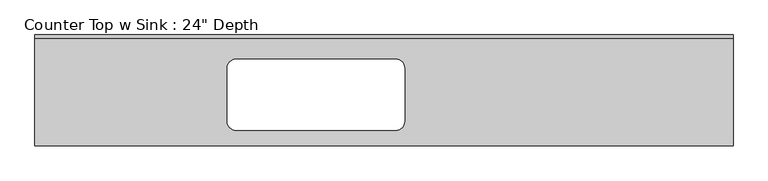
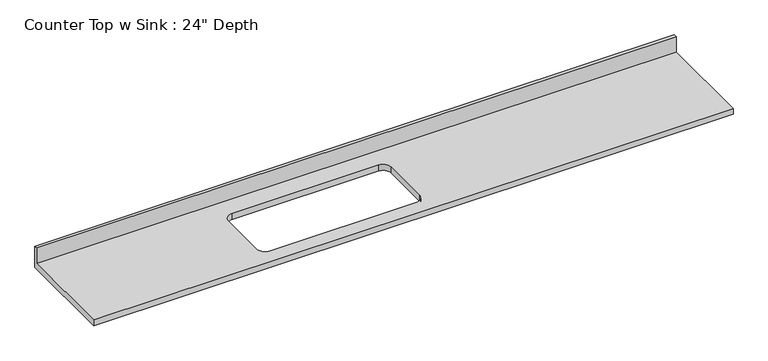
"""IFC4 building model written with IfcOpenShell, lengths in millimetres: furniture geometry."""

from ifc_helpers import new_model, si_unit, frame, origin, place, context, project, spatial, polyline, circle_curve, source, transform, mapped, element, save
from ifc_brep_helpers import plane_surface, revolved_surface, advanced_brep


def furniture_78cc09a6(model_context):
    return source(origin(), model_context, "Body", "AdvancedBrep", [
        advanced_brep(
        [(-1200.4622951, -635.0, 914.4), (2796.8627049, -635.0, 914.4), (2796.8627049, -19.05, 914.4), (-1200.4622951, -19.05, 914.4), (-48.9743878, -139.7, 914.4), (865.4256122, -139.7, 914.4), (916.2256122, -190.5, 914.4), (916.2256122, -495.3, 914.4), (865.4256122, -546.1, 914.4), (-48.9743878, -546.1, 914.4), (-99.7743878, -495.3, 914.4), (-99.7743878, -190.5, 914.4), (2796.8627049, 0.0, 876.3), (2796.8627049, -635.0, 876.3), (-1200.4622951, -635.0, 876.3), (-1200.4622951, 0.0, 876.3), (865.4256122, -139.7, 876.3), (-48.9743878, -139.7, 876.3), (-99.7743878, -190.5, 876.3), (-99.7743878, -495.3, 876.3), (-48.9743878, -546.1, 876.3), (865.4256122, -546.1, 876.3), (916.2256122, -495.3, 876.3), (916.2256122, -190.5, 876.3), (-1200.4622951, 0.0, 1016.0), (2796.8627049, 0.0, 1016.0), (-1200.4622951, -19.05, 1016.0), (2796.8627049, -19.05, 1016.0)],
        [
            (0, 1),
            (1, 2),
            (2, 3),
            (3, 0),
            (4, 5),
            (5, 6, circle_curve(frame((865.4256122, -190.5, 914.4), z_axis=(0.0, 0.0, -1.0), x_axis=(1.0, 0.0, 0.0)), 50.8)),
            (6, 7),
            (7, 8, circle_curve(frame((865.4256122, -495.3, 914.4), z_axis=(0.0, 0.0, -1.0), x_axis=(1.0, 0.0, 0.0)), 50.8)),
            (8, 9),
            (9, 10, circle_curve(frame((-48.9743878, -495.3, 914.4), z_axis=(0.0, 0.0, -1.0), x_axis=(1.0, 0.0, 0.0)), 50.8)),
            (10, 11),
            (11, 4, circle_curve(frame((-48.9743878, -190.5, 914.4), z_axis=(0.0, 0.0, -1.0), x_axis=(1.0, 0.0, 0.0)), 50.8)),
            (12, 13),
            (13, 14),
            (14, 15),
            (15, 12),
            (16, 17),
            (17, 18, circle_curve(frame((-48.9743878, -190.5, 876.3), z_axis=(0.0, 0.0, 1.0), x_axis=(1.0, 0.0, 0.0)), 50.8)),
            (18, 19),
            (19, 20, circle_curve(frame((-48.9743878, -495.3, 876.3), z_axis=(0.0, 0.0, 1.0), x_axis=(1.0, 0.0, 0.0)), 50.8)),
            (20, 21),
            (21, 22, circle_curve(frame((865.4256122, -495.3, 876.3), z_axis=(0.0, 0.0, 1.0), x_axis=(1.0, 0.0, 0.0)), 50.8)),
            (22, 23),
            (23, 16, circle_curve(frame((865.4256122, -190.5, 876.3), z_axis=(0.0, 0.0, 1.0), x_axis=(1.0, 0.0, 0.0)), 50.8)),
            (15, 24),
            (24, 25),
            (25, 12),
            (14, 0),
            (3, 26),
            (26, 24),
            (13, 1),
            (25, 27),
            (27, 2),
            (4, 17),
            (16, 5),
            (18, 11),
            (10, 19),
            (20, 9),
            (8, 21),
            (22, 7),
            (6, 23),
            (26, 27),
        ],
        [
            plane_surface(frame((-1200.4622951, 0.0, 914.4), z_axis=(0.0, 0.0, 1.0), x_axis=(-1.0, 0.0, 0.0))),
            plane_surface(frame((-1200.4622951, 0.0, 876.3), z_axis=(0.0, 0.0, -1.0), x_axis=(1.0, 0.0, 0.0))),
            plane_surface(frame((2796.8627049, 0.0, 914.4), z_axis=(0.0, 1.0, 0.0), x_axis=(0.0, 0.0, -1.0))),
            plane_surface(frame((-1200.4622951, 0.0, 914.4), z_axis=(-1.0, 0.0, 0.0), x_axis=(0.0, 0.0, -1.0))),
            plane_surface(frame((-1200.4622951, -635.0, 914.4), z_axis=(0.0, -1.0, 0.0), x_axis=(0.0, 0.0, -1.0))),
            plane_surface(frame((2796.8627049, -635.0, 914.4), z_axis=(1.0, 0.0, 0.0), x_axis=(0.0, 0.0, -1.0))),
            plane_surface(frame((865.4256122, -139.7, 914.4), z_axis=(0.0, -1.0, 0.0), x_axis=(0.0, 0.0, -1.0))),
            plane_surface(frame((-99.7743878, -190.5, 914.4), z_axis=(1.0, 0.0, 0.0), x_axis=(0.0, 0.0, -1.0))),
            plane_surface(frame((-48.9743878, -546.1, 914.4), z_axis=(0.0, 1.0, 0.0), x_axis=(0.0, 0.0, -1.0))),
            plane_surface(frame((916.2256122, -495.3, 914.4), z_axis=(-1.0, 0.0, 0.0), x_axis=(0.0, 0.0, -1.0))),
            revolved_surface(polyline([(1.8256121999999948, -190.5, 914.4), (1.8256121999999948, -190.5, 876.3)]), (-48.9743878, -190.5, 876.3), (0.0, 0.0, 1.0)),
            revolved_surface(polyline([(916.2256122, -495.3, 914.4), (916.2256122, -495.3, 876.3)]), (865.4256122, -495.3, 876.3), (0.0, 0.0, 1.0)),
            revolved_surface(polyline([(916.2256122, -190.5, 914.4), (916.2256122, -190.5, 876.3)]), (865.4256122, -190.5, 876.3), (0.0, 0.0, 1.0)),
            revolved_surface(polyline([(1.8256121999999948, -495.3, 914.4), (1.8256121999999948, -495.3, 876.3)]), (-48.9743878, -495.3, 876.3), (0.0, 0.0, 1.0)),
            plane_surface(frame((-1200.4622951, 0.0, 1016.0), z_axis=(0.0, 0.0, 1.0), x_axis=(0.0, -1.0, 0.0))),
            plane_surface(frame((-1200.4622951, -19.05, 1016.0), z_axis=(0.0, -1.0, 0.0), x_axis=(0.0, 0.0, -1.0))),
        ],
        [
            (0, [[1, 2, 3, 4], [5, 6, 7, 8, 9, 10, 11, 12]]),
            (1, [[13, 14, 15, 16], [17, 18, 19, 20, 21, 22, 23, 24]]),
            (2, [[-16, 25, 26, 27]]),
            (3, [[-15, 28, -4, 29, 30, -25]]),
            (4, [[-1, -28, -14, 31]]),
            (5, [[-13, -27, 32, 33, -2, -31]]),
            (6, [[34, -17, 35, -5]]),
            (7, [[36, -11, 37, -19]]),
            (8, [[38, -9, 39, -21]]),
            (9, [[40, -7, 41, -23]]),
            (10, [[-34, -12, -36, -18]]),
            (11, [[-39, -8, -40, -22]]),
            (12, [[-35, -24, -41, -6]]),
            (13, [[-37, -10, -38, -20]]),
            (14, [[-30, 42, -32, -26]]),
            (15, [[-42, -29, -3, -33]]),
        ],
    ),
    ])


if __name__ == "__main__":
    model = new_model("IFC4")
    model_context = context("Model", 3, world=origin())
    ifc_project = project(units=[si_unit("LENGTHUNIT", "METRE", prefix="MILLI")], contexts=[model_context])
    site = spatial("IfcSite", under=ifc_project)
    building = spatial("IfcBuilding", under=site)
    placement = place(None, origin())
    furniture_shape = furniture_78cc09a6(model_context)
    element("IfcFurniture", 1, ObjectType="Counter Top w Sink : 24\" Depth", at=placement, inside=building, context=model_context, shape_type="MappedRepresentation", body=[
        mapped(furniture_shape, transform((0.0, 0.0, 0.0), x_axis=(1.0, 0.0, 0.0), y_axis=(0.0, 1.0, 0.0), z_axis=(0.0, 0.0, 1.0))),
    ])
    save(model, "model.ifc")
